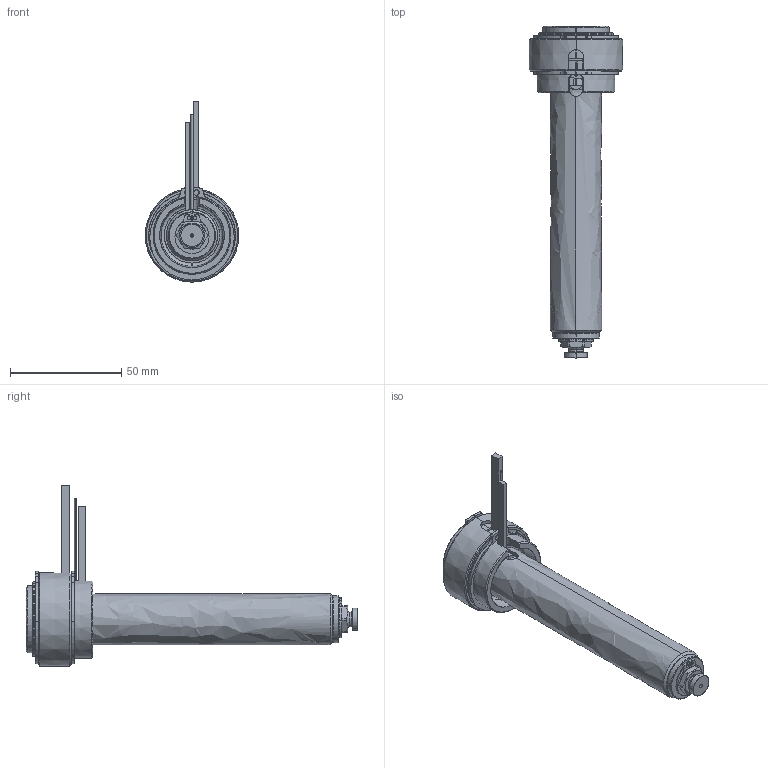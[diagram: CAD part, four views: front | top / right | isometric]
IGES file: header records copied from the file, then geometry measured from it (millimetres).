
Start section: SolidWorks IGES file using analytic representation for surfaces
Global section: file name: C:\Users\luca.EMPAD\Desktop\TEM\UGBE3503-M-A-3 [Ød-1.0 P-0 ØC-6.0].IGS; native system: SolidWorks 2012; preprocessor: SolidWorks 2012; author: luca; date: 120330.135434; units: millimetre
Bounding box: 42 x 149 x 80.9 mm (x, y, z)
Surface area: 36617.9 mm2 (no closed solid volume)
Topology: 0 solids, 0 shells, 187 faces, 3254 edges, 3254 vertices
Faces by surface type: revolution 121, bspline 66
